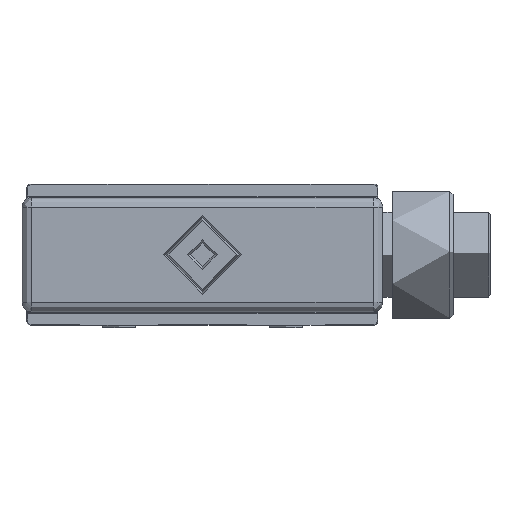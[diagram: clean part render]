
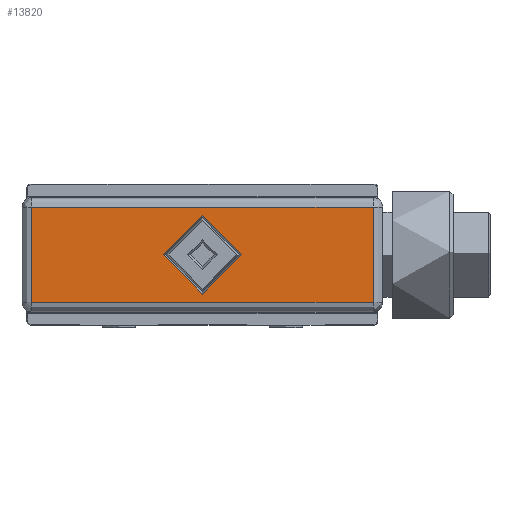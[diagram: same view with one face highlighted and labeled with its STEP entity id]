
A CAD part, front view. The second image highlights one B-rep face of the part: STEP entity #13820.
In plain terms, the highlighted planar face has unit normal (0, -1, 0).
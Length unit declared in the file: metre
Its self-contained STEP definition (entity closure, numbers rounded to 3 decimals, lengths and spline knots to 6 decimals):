
#13565=CARTESIAN_POINT('',(-0.042511,-0.033251,0.118941));
#13566=VERTEX_POINT('',#13565);
#13593=CARTESIAN_POINT('',(-0.042511,-0.033251,0.063741));
#13594=DIRECTION('',(0.,0.,1.));
#13595=VECTOR('',#13594,1.);
#13596=LINE('',#13593,#13595);
#13597=CARTESIAN_POINT('',(-0.042511,-0.033251,0.133441));
#13598=VERTEX_POINT('',#13597);
#13599=EDGE_CURVE('',#13566,#13598,#13596,.T.);
#13680=CARTESIAN_POINT('',(-0.044011,-0.033251,0.063741));
#13681=DIRECTION('',(0.,1.,0.));
#13682=DIRECTION('',(0.,0.,1.));
#13683=AXIS2_PLACEMENT_3D('',#13680,#13681,#13682);
#13684=PLANE('',#13683);
#13772=CARTESIAN_POINT('',(-0.016511,-0.033251,0.126191));
#13773=DIRECTION('',(0.,-1.,0.));
#13774=DIRECTION('',(0.,0.,-1.));
#13775=AXIS2_PLACEMENT_3D('',#13772,#13773,#13774);
#13776=CIRCLE('',#13775,0.006);
#13777=CARTESIAN_POINT('',(-0.016511,-0.033251,0.132191));
#13778=VERTEX_POINT('',#13777);
#13779=EDGE_CURVE('',#13778,#13778,#13776,.T.);
#13792=ORIENTED_EDGE('',*,*,#13779,.F.);
#13793=EDGE_LOOP('',(#13792));
#13794=FACE_BOUND('',#13793,.T.);
#13795=CARTESIAN_POINT('',(-0.044011,-0.033251,0.133441));
#13796=DIRECTION('',(1.,0.,0.));
#13797=VECTOR('',#13796,1.);
#13798=LINE('',#13795,#13797);
#13799=CARTESIAN_POINT('',(0.009489,-0.033251,0.133441));
#13800=VERTEX_POINT('',#13799);
#13801=EDGE_CURVE('',#13598,#13800,#13798,.T.);
#13802=ORIENTED_EDGE('',*,*,#13801,.F.);
#13803=ORIENTED_EDGE('',*,*,#13599,.F.);
#13804=CARTESIAN_POINT('',(-0.044011,-0.033251,0.118941));
#13805=DIRECTION('',(1.,0.,0.));
#13806=VECTOR('',#13805,1.);
#13807=LINE('',#13804,#13806);
#13808=CARTESIAN_POINT('',(0.009489,-0.033251,0.118941));
#13809=VERTEX_POINT('',#13808);
#13810=EDGE_CURVE('',#13566,#13809,#13807,.T.);
#13811=ORIENTED_EDGE('',*,*,#13810,.T.);
#13812=CARTESIAN_POINT('',(0.009489,-0.033251,0.063741));
#13813=DIRECTION('',(0.,0.,-1.));
#13814=VECTOR('',#13813,1.);
#13815=LINE('',#13812,#13814);
#13816=EDGE_CURVE('',#13800,#13809,#13815,.T.);
#13817=ORIENTED_EDGE('',*,*,#13816,.F.);
#13818=EDGE_LOOP('',(#13802,#13803,#13811,#13817));
#13819=FACE_BOUND('',#13818,.T.);
#13820=ADVANCED_FACE('',(#13794,#13819),#13684,.F.);
